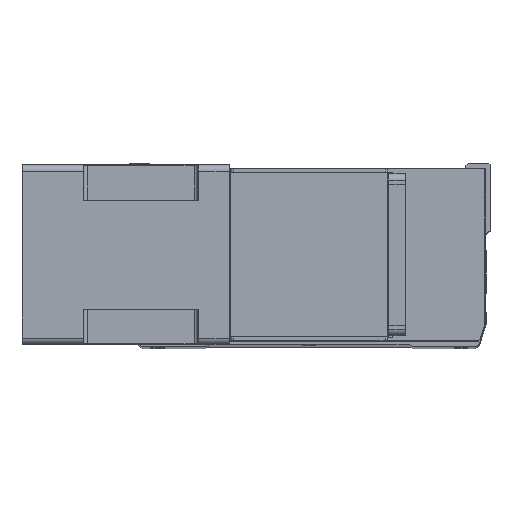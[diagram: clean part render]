
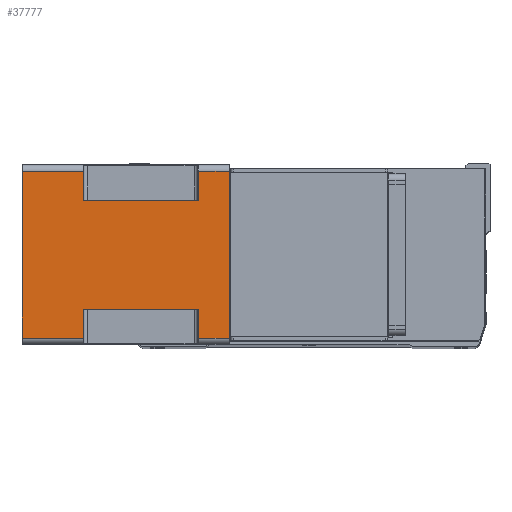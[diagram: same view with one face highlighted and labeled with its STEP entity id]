
A CAD part, top view. The second image highlights one B-rep face of the part: STEP entity #37777.
In plain terms, the highlighted planar face has unit normal (0, 0, 1) as drawn and (-1, 0, 0) by its records, which use the part's own axes.
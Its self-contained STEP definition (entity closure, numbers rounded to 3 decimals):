
#449 = LINE ( 'NONE', #8799, #20674 ) ;
#880 = DIRECTION ( 'NONE',  ( 0., 1., 0. ) ) ;
#1071 = CARTESIAN_POINT ( 'NONE',  ( -71., -66., -24.5 ) ) ;
#2554 = CARTESIAN_POINT ( 'NONE',  ( -71., 66., -24.5 ) ) ;
#2711 = DIRECTION ( 'NONE',  ( 0., -1., 0. ) ) ;
#2992 = CARTESIAN_POINT ( 'NONE',  ( -71., -43., -164. ) ) ;
#3430 = DIRECTION ( 'NONE',  ( 0., 0., 1. ) ) ;
#4019 = LINE ( 'NONE', #22879, #29385 ) ;
#4229 = ORIENTED_EDGE ( 'NONE', *, *, #22323, .F. ) ;
#5381 = EDGE_LOOP ( 'NONE', ( #39472, #38908, #20316, #24776, #10241, #4229, #18215, #14564, #32430, #16444, #26248, #6896 ) ) ;
#5842 = EDGE_CURVE ( 'NONE', #6970, #9299, #18399, .T. ) ;
#6144 = DIRECTION ( 'NONE',  ( 0., -1., 0. ) ) ;
#6667 = CARTESIAN_POINT ( 'NONE',  ( -71., 66., -164. ) ) ;
#6896 = ORIENTED_EDGE ( 'NONE', *, *, #7024, .T. ) ;
#6970 = VERTEX_POINT ( 'NONE', #12732 ) ;
#7006 = CARTESIAN_POINT ( 'NONE',  ( -71., 43., -24.5 ) ) ;
#7024 = EDGE_CURVE ( 'NONE', #24397, #12150, #12064, .T. ) ;
#7315 = CARTESIAN_POINT ( 'NONE',  ( -71., -43., -115.5 ) ) ;
#7824 = VERTEX_POINT ( 'NONE', #7006 ) ;
#8799 = CARTESIAN_POINT ( 'NONE',  ( -71., -43., -115.5 ) ) ;
#9086 = PLANE ( 'NONE',  #16445 ) ;
#9299 = VERTEX_POINT ( 'NONE', #1071 ) ;
#9339 = DIRECTION ( 'NONE',  ( 0., -1., 0. ) ) ;
#9458 = LINE ( 'NONE', #40152, #42089 ) ;
#9580 = VECTOR ( 'NONE', #13413, 1000. ) ;
#10241 = ORIENTED_EDGE ( 'NONE', *, *, #22382, .T. ) ;
#10595 = LINE ( 'NONE', #22054, #35958 ) ;
#10688 = LINE ( 'NONE', #23315, #32939 ) ;
#10904 = VERTEX_POINT ( 'NONE', #2554 ) ;
#12064 = LINE ( 'NONE', #28927, #38968 ) ;
#12150 = VERTEX_POINT ( 'NONE', #24434 ) ;
#12434 = DIRECTION ( 'NONE',  ( 0., 1., 0. ) ) ;
#12732 = CARTESIAN_POINT ( 'NONE',  ( -71., -43., -24.5 ) ) ;
#13068 = EDGE_CURVE ( 'NONE', #28386, #7824, #41615, .T. ) ;
#13413 = DIRECTION ( 'NONE',  ( 0., -1., 0. ) ) ;
#14564 = ORIENTED_EDGE ( 'NONE', *, *, #24812, .T. ) ;
#15247 = FACE_OUTER_BOUND ( 'NONE', #5381, .T. ) ;
#15745 = CARTESIAN_POINT ( 'NONE',  ( -71., -66., -164. ) ) ;
#16046 = DIRECTION ( 'NONE',  ( -1., 0., 0. ) ) ;
#16444 = ORIENTED_EDGE ( 'NONE', *, *, #41271, .T. ) ;
#16445 = AXIS2_PLACEMENT_3D ( 'NONE', #15745, #16046, #2711 ) ;
#16561 = DIRECTION ( 'NONE',  ( 0., 0., 1. ) ) ;
#16654 = LINE ( 'NONE', #33616, #23829 ) ;
#17276 = CARTESIAN_POINT ( 'NONE',  ( -71., -66., -24.5 ) ) ;
#17521 = CARTESIAN_POINT ( 'NONE',  ( -71., -66., -115.5 ) ) ;
#18215 = ORIENTED_EDGE ( 'NONE', *, *, #38236, .F. ) ;
#18399 = LINE ( 'NONE', #17276, #9580 ) ;
#19238 = CARTESIAN_POINT ( 'NONE',  ( -71., 43., -164. ) ) ;
#19355 = DIRECTION ( 'NONE',  ( 0., 0., -1. ) ) ;
#20316 = ORIENTED_EDGE ( 'NONE', *, *, #21813, .F. ) ;
#20674 = VECTOR ( 'NONE', #12434, 1000. ) ;
#20876 = VECTOR ( 'NONE', #28009, 1000. ) ;
#20903 = VECTOR ( 'NONE', #3430, 1000. ) ;
#21813 = EDGE_CURVE ( 'NONE', #6970, #34526, #26870, .T. ) ;
#22054 = CARTESIAN_POINT ( 'NONE',  ( -71., 43., -24.5 ) ) ;
#22323 = EDGE_CURVE ( 'NONE', #37772, #42987, #4019, .T. ) ;
#22382 = EDGE_CURVE ( 'NONE', #9299, #42987, #10688, .T. ) ;
#22879 = CARTESIAN_POINT ( 'NONE',  ( -71., -66., 0. ) ) ;
#23315 = CARTESIAN_POINT ( 'NONE',  ( -71., -66., -164. ) ) ;
#23633 = VECTOR ( 'NONE', #29454, 1000. ) ;
#23829 = VECTOR ( 'NONE', #27542, 1000. ) ;
#24397 = VERTEX_POINT ( 'NONE', #6667 ) ;
#24434 = CARTESIAN_POINT ( 'NONE',  ( -71., -66., -164. ) ) ;
#24776 = ORIENTED_EDGE ( 'NONE', *, *, #5842, .T. ) ;
#24812 = EDGE_CURVE ( 'NONE', #10904, #7824, #10595, .T. ) ;
#26077 = EDGE_CURVE ( 'NONE', #24397, #34566, #16654, .T. ) ;
#26248 = ORIENTED_EDGE ( 'NONE', *, *, #26077, .F. ) ;
#26595 = VERTEX_POINT ( 'NONE', #17521 ) ;
#26870 = LINE ( 'NONE', #2992, #29431 ) ;
#27542 = DIRECTION ( 'NONE',  ( 0., 0., 1. ) ) ;
#28009 = DIRECTION ( 'NONE',  ( 0., 0., 1. ) ) ;
#28386 = VERTEX_POINT ( 'NONE', #37808 ) ;
#28927 = CARTESIAN_POINT ( 'NONE',  ( -71., -66., -164. ) ) ;
#29347 = LINE ( 'NONE', #35814, #23633 ) ;
#29385 = VECTOR ( 'NONE', #6144, 1000. ) ;
#29431 = VECTOR ( 'NONE', #19355, 1000. ) ;
#29454 = DIRECTION ( 'NONE',  ( 0., 0., 1. ) ) ;
#32430 = ORIENTED_EDGE ( 'NONE', *, *, #13068, .F. ) ;
#32792 = CARTESIAN_POINT ( 'NONE',  ( -71., 66., 0. ) ) ;
#32867 = CARTESIAN_POINT ( 'NONE',  ( -71., -66., 0. ) ) ;
#32939 = VECTOR ( 'NONE', #16561, 1000. ) ;
#33616 = CARTESIAN_POINT ( 'NONE',  ( -71., 66., -164. ) ) ;
#34347 = CARTESIAN_POINT ( 'NONE',  ( -71., 66., -164. ) ) ;
#34424 = EDGE_CURVE ( 'NONE', #12150, #26595, #29347, .T. ) ;
#34526 = VERTEX_POINT ( 'NONE', #7315 ) ;
#34566 = VERTEX_POINT ( 'NONE', #36948 ) ;
#35814 = CARTESIAN_POINT ( 'NONE',  ( -71., -66., -164. ) ) ;
#35865 = LINE ( 'NONE', #34347, #20876 ) ;
#35958 = VECTOR ( 'NONE', #9339, 1000. ) ;
#36016 = DIRECTION ( 'NONE',  ( 0., -1., 0. ) ) ;
#36948 = CARTESIAN_POINT ( 'NONE',  ( -71., 66., -115.5 ) ) ;
#37772 = VERTEX_POINT ( 'NONE', #32792 ) ;
#37777 = ADVANCED_FACE ( 'NONE', ( #15247 ), #9086, .T. ) ;
#37808 = CARTESIAN_POINT ( 'NONE',  ( -71., 43., -115.5 ) ) ;
#38236 = EDGE_CURVE ( 'NONE', #10904, #37772, #35865, .T. ) ;
#38908 = ORIENTED_EDGE ( 'NONE', *, *, #39368, .T. ) ;
#38968 = VECTOR ( 'NONE', #36016, 1000. ) ;
#39368 = EDGE_CURVE ( 'NONE', #26595, #34526, #449, .T. ) ;
#39472 = ORIENTED_EDGE ( 'NONE', *, *, #34424, .T. ) ;
#40152 = CARTESIAN_POINT ( 'NONE',  ( -71., -66., -115.5 ) ) ;
#41271 = EDGE_CURVE ( 'NONE', #28386, #34566, #9458, .T. ) ;
#41615 = LINE ( 'NONE', #19238, #20903 ) ;
#42089 = VECTOR ( 'NONE', #880, 1000. ) ;
#42987 = VERTEX_POINT ( 'NONE', #32867 ) ;
